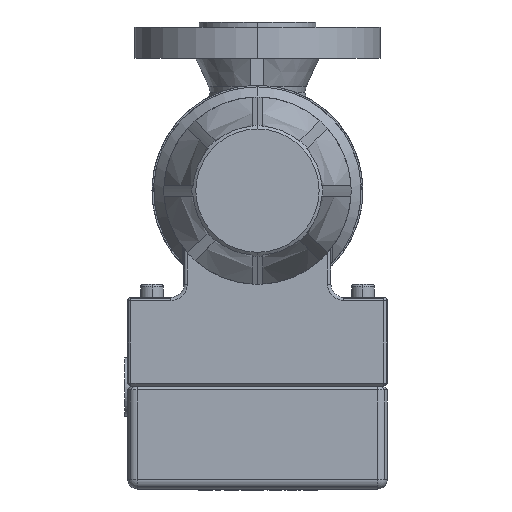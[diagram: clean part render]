
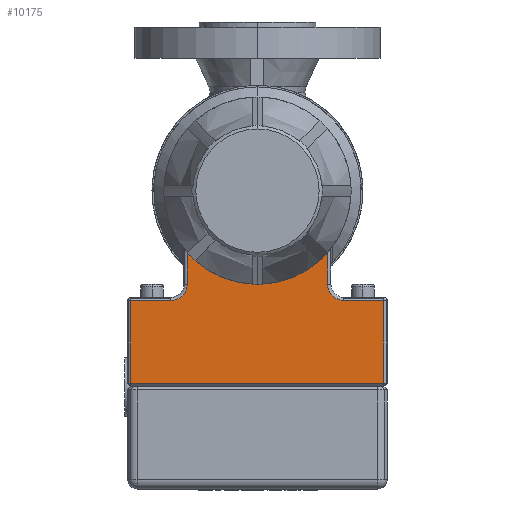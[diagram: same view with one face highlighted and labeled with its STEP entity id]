
A CAD part, front view. The second image highlights one B-rep face of the part: STEP entity #10175.
In plain terms, the highlighted free-form (B-spline) face has degree [1, 1] with [2, 2] control points.
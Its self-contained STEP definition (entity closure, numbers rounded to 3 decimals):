
#7670=CARTESIAN_POINT('',(48.75,-261.717,-9.312));
#7671=VERTEX_POINT('',#7670);
#7701=CARTESIAN_POINT('',(48.75,-261.717,22.658));
#7702=VERTEX_POINT('',#7701);
#7710=CARTESIAN_POINT('',(48.75,-261.717,22.658));
#7711=DIRECTION('',(0.0,0.0,-1.0));
#7712=VECTOR('',#7711,31.97);
#7713=LINE('',#7710,#7712);
#7714=EDGE_CURVE('',#7702,#7671,#7713,.T.);
#8305=CARTESIAN_POINT('',(33.334,-261.717,22.658));
#8306=VERTEX_POINT('',#8305);
#8314=CARTESIAN_POINT('',(33.334,-261.717,22.658));
#8315=DIRECTION('',(1.0,0.0,0.0));
#8316=VECTOR('',#8315,15.416);
#8317=LINE('',#8314,#8316);
#8318=EDGE_CURVE('',#8306,#7702,#8317,.T.);
#8375=CARTESIAN_POINT('',(33.514,-261.717,65.));
#8376=VERTEX_POINT('',#8375);
#8386=CARTESIAN_POINT('',(27.894,-261.717,46.423));
#8387=VERTEX_POINT('',#8386);
#8388=CARTESIAN_POINT('',(0.,-261.717,65.));
#8389=DIRECTION('',(0.0,1.0,0.0));
#8390=DIRECTION('',(0.0,0.0,1.0));
#8391=AXIS2_PLACEMENT_3D('',#8388,#8389,#8390);
#8392=CIRCLE('',#8391,33.514);
#8393=EDGE_CURVE('',#8376,#8387,#8392,.T.);
#8419=CARTESIAN_POINT('',(-33.514,-261.717,65.));
#8420=VERTEX_POINT('',#8419);
#8429=CARTESIAN_POINT('',(-27.894,-261.717,46.423));
#8430=VERTEX_POINT('',#8429);
#8438=CARTESIAN_POINT('',(0.,-261.717,65.));
#8439=DIRECTION('',(0.0,1.0,0.0));
#8440=DIRECTION('',(0.0,0.0,1.0));
#8441=AXIS2_PLACEMENT_3D('',#8438,#8439,#8440);
#8442=CIRCLE('',#8441,33.514);
#8443=EDGE_CURVE('',#8430,#8420,#8442,.T.);
#8463=CARTESIAN_POINT('',(-48.75,-261.717,22.658));
#8464=VERTEX_POINT('',#8463);
#8472=CARTESIAN_POINT('',(-33.334,-261.717,22.658));
#8473=VERTEX_POINT('',#8472);
#8474=CARTESIAN_POINT('',(-48.75,-261.717,22.658));
#8475=DIRECTION('',(1.0,0.0,0.0));
#8476=VECTOR('',#8475,15.416);
#8477=LINE('',#8474,#8476);
#8478=EDGE_CURVE('',#8464,#8473,#8477,.T.);
#8505=CARTESIAN_POINT('',(-27.084,-261.717,28.908));
#8506=VERTEX_POINT('',#8505);
#8514=CARTESIAN_POINT('',(-27.084,-261.717,43.462));
#8515=VERTEX_POINT('',#8514);
#8516=CARTESIAN_POINT('',(-27.084,-261.717,28.908));
#8517=DIRECTION('',(0.0,0.0,1.0));
#8518=VECTOR('',#8517,14.554);
#8519=LINE('',#8516,#8518);
#8520=EDGE_CURVE('',#8506,#8515,#8519,.T.);
#9008=CARTESIAN_POINT('',(27.084,-261.717,43.462));
#9009=VERTEX_POINT('',#9008);
#9010=CARTESIAN_POINT('',(27.084,-261.717,43.462));
#9011=CARTESIAN_POINT('',(27.084,-261.717,43.591));
#9012=CARTESIAN_POINT('',(27.088,-261.717,43.721));
#9013=CARTESIAN_POINT('',(27.096,-261.717,43.85));
#9014=CARTESIAN_POINT('',(27.109,-261.717,44.057));
#9015=CARTESIAN_POINT('',(27.132,-261.717,44.264));
#9016=CARTESIAN_POINT('',(27.165,-261.717,44.469));
#9017=CARTESIAN_POINT('',(27.219,-261.717,44.797));
#9018=CARTESIAN_POINT('',(27.299,-261.717,45.118));
#9019=CARTESIAN_POINT('',(27.409,-261.717,45.432));
#9020=CARTESIAN_POINT('',(27.532,-261.717,45.78));
#9021=CARTESIAN_POINT('',(27.691,-261.717,46.117));
#9022=CARTESIAN_POINT('',(27.894,-261.717,46.423));
#9023=B_SPLINE_CURVE_WITH_KNOTS('',3,(#9010,#9011,#9012,#9013,#9014,#9015,#9016,#9017,#9018,#9019,#9020,#9021,#9022),.UNSPECIFIED.,.F.,.U.,(4,3,3,3,4),(-3.101,-2.713,-2.093,-1.101,0.),.UNSPECIFIED.);
#9024=EDGE_CURVE('',#8387,#9009,#9023,.F.);
#9147=CARTESIAN_POINT('',(-27.894,-261.717,46.423));
#9148=CARTESIAN_POINT('',(-27.794,-261.717,46.272));
#9149=CARTESIAN_POINT('',(-27.705,-261.717,46.114));
#9150=CARTESIAN_POINT('',(-27.534,-261.717,45.764));
#9151=CARTESIAN_POINT('',(-27.456,-261.717,45.57));
#9152=CARTESIAN_POINT('',(-27.348,-261.717,45.25));
#9153=CARTESIAN_POINT('',(-27.311,-261.717,45.126));
#9154=CARTESIAN_POINT('',(-27.262,-261.717,44.938));
#9155=CARTESIAN_POINT('',(-27.246,-261.717,44.876));
#9156=CARTESIAN_POINT('',(-27.209,-261.717,44.711));
#9157=CARTESIAN_POINT('',(-27.189,-261.717,44.61));
#9158=CARTESIAN_POINT('',(-27.144,-261.717,44.344));
#9159=CARTESIAN_POINT('',(-27.123,-261.717,44.179));
#9160=CARTESIAN_POINT('',(-27.092,-261.717,43.83));
#9161=CARTESIAN_POINT('',(-27.084,-261.717,43.646));
#9162=CARTESIAN_POINT('',(-27.084,-261.717,43.462));
#9163=B_SPLINE_CURVE_WITH_KNOTS('',3,(#9147,#9148,#9149,#9150,#9151,#9152,#9153,#9154,#9155,#9156,#9157,#9158,#9159,#9160,#9161,#9162),.UNSPECIFIED.,.F.,.U.,(4,2,2,2,2,2,2,4),(-3.101,-2.558,-1.938,-1.55,-1.356,-1.046,-0.55,0.),.UNSPECIFIED.);
#9164=EDGE_CURVE('',#8515,#8430,#9163,.F.);
#9208=CARTESIAN_POINT('',(-33.334,-261.717,28.908));
#9209=DIRECTION('',(0.,-1.0,0.));
#9210=DIRECTION('',(0.707,0.,-0.707));
#9211=AXIS2_PLACEMENT_3D('',#9208,#9209,#9210);
#9212=CIRCLE('',#9211,6.25);
#9213=EDGE_CURVE('',#8473,#8506,#9212,.T.);
#9259=CARTESIAN_POINT('',(0.,-261.717,65.));
#9260=DIRECTION('',(0.0,1.0,0.0));
#9261=DIRECTION('',(0.0,0.0,1.0));
#9262=AXIS2_PLACEMENT_3D('',#9259,#9260,#9261);
#9263=CIRCLE('',#9262,33.514);
#9264=EDGE_CURVE('',#8420,#8376,#9263,.T.);
#9385=CARTESIAN_POINT('',(27.084,-261.717,28.908));
#9386=VERTEX_POINT('',#9385);
#9387=CARTESIAN_POINT('',(27.084,-261.717,43.462));
#9388=DIRECTION('',(0.0,0.0,-1.0));
#9389=VECTOR('',#9388,14.554);
#9390=LINE('',#9387,#9389);
#9391=EDGE_CURVE('',#9009,#9386,#9390,.T.);
#9428=CARTESIAN_POINT('',(33.334,-261.717,28.908));
#9429=DIRECTION('',(0.,-1.0,0.));
#9430=DIRECTION('',(-0.707,0.,-0.707));
#9431=AXIS2_PLACEMENT_3D('',#9428,#9429,#9430);
#9432=CIRCLE('',#9431,6.25);
#9433=EDGE_CURVE('',#9386,#8306,#9432,.T.);
#10028=CARTESIAN_POINT('',(-48.75,-261.717,-9.312));
#10029=VERTEX_POINT('',#10028);
#10037=CARTESIAN_POINT('',(-48.75,-261.717,-9.312));
#10038=DIRECTION('',(0.0,0.0,1.0));
#10039=VECTOR('',#10038,31.97);
#10040=LINE('',#10037,#10039);
#10041=EDGE_CURVE('',#10029,#8464,#10040,.T.);
#10149=CARTESIAN_POINT('',(-48.75,-261.717,98.514));
#10150=CARTESIAN_POINT('',(-48.75,-261.717,-9.312));
#10151=CARTESIAN_POINT('',(48.75,-261.717,98.514));
#10152=CARTESIAN_POINT('',(48.75,-261.717,-9.312));
#10153=B_SPLINE_SURFACE_WITH_KNOTS('',1,1,((#10149,#10151),(#10150,#10152)),.UNSPECIFIED.,.F.,.F.,.U.,(2,2),(2,2),(0.0,107.826),(0.0,97.5),.UNSPECIFIED.);
#10154=ORIENTED_EDGE('',*,*,#10041,.F.);
#10155=CARTESIAN_POINT('',(48.75,-261.717,-9.312));
#10156=DIRECTION('',(-1.0,0.0,0.0));
#10157=VECTOR('',#10156,97.5);
#10158=LINE('',#10155,#10157);
#10159=EDGE_CURVE('',#7671,#10029,#10158,.T.);
#10160=ORIENTED_EDGE('',*,*,#10159,.F.);
#10161=ORIENTED_EDGE('',*,*,#7714,.F.);
#10162=ORIENTED_EDGE('',*,*,#8318,.F.);
#10163=ORIENTED_EDGE('',*,*,#9433,.F.);
#10164=ORIENTED_EDGE('',*,*,#9391,.F.);
#10165=ORIENTED_EDGE('',*,*,#9024,.F.);
#10166=ORIENTED_EDGE('',*,*,#8393,.F.);
#10167=ORIENTED_EDGE('',*,*,#9264,.F.);
#10168=ORIENTED_EDGE('',*,*,#8443,.F.);
#10169=ORIENTED_EDGE('',*,*,#9164,.F.);
#10170=ORIENTED_EDGE('',*,*,#8520,.F.);
#10171=ORIENTED_EDGE('',*,*,#9213,.F.);
#10172=ORIENTED_EDGE('',*,*,#8478,.F.);
#10173=EDGE_LOOP('',(#10154,#10160,#10161,#10162,#10163,#10164,#10165,#10166,#10167,#10168,#10169,#10170,#10171,#10172));
#10174=FACE_OUTER_BOUND('',#10173,.T.);
#10175=ADVANCED_FACE('',(#10174),#10153,.T.);
